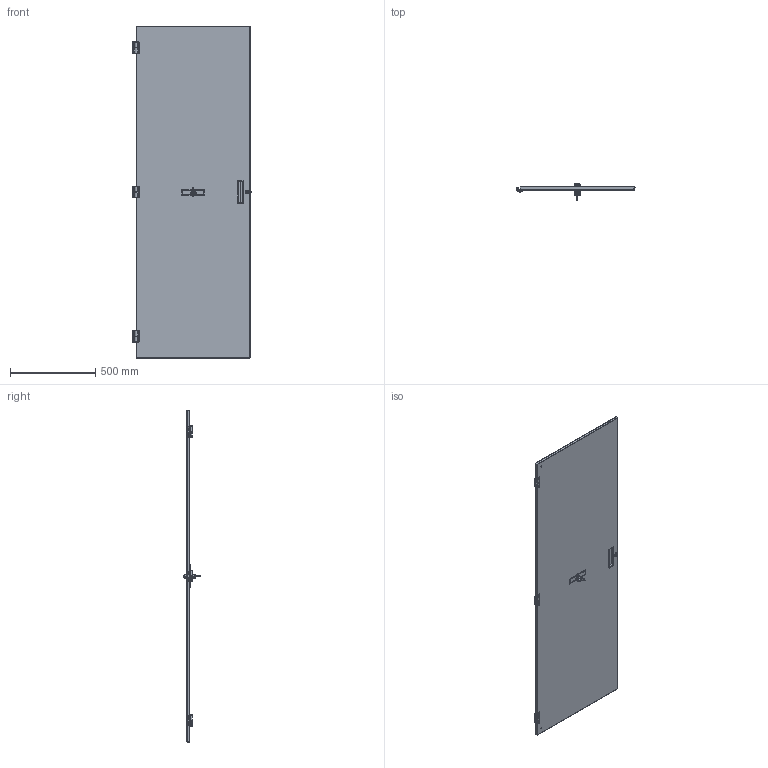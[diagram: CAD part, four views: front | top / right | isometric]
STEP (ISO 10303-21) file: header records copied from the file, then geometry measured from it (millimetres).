
FILE_DESCRIPTION( ( 'Unknown' ), '1' );
FILE_NAME( 'Q:/C4/WEB DRAWINGS/C4DF/STEP/C4DF3077S.stp', 'Unknown', ( 'Unknown' ), ( 'Unknown' ), 'PSStep 10.1', 'Unknown', ' ' );
FILE_SCHEMA( ( 'AUTOMOTIVE_DESIGN { 1 0 10303 214 1 1 1 1 }' ) );
Length unit declared in the file: millimetre
Products named in the file (14): COM55531-7; Assem1; HNG14591; std26020; std26020-oa0; HNG14591-1; HNG14591-1-oa1; HNG14591-2; HNG14591-2-oa2; HNG14591-3; HNG14591-4; HAN13044; LOC13312
Bounding box: 694.89 x 95.1 x 1951.05 mm (x, y, z)
Volume: 6425583.1 mm3; surface area: 8765116 mm2
Topology: 43 solids, 43 shells, 3211 faces, 7594 edges, 4948 vertices
Faces by surface type: plane 2222, cylinder 793, torus 70, cone 68, bspline 58
Full cylindrical faces by diameter (mm): 4.775 x6, 6 x10, 6.1 x10, 6.2 x20, 6.35 x6, 8.382 x2, 9.95 x20, 10.312 x18, 13.868 x2, 13.97 x2, 21.996 x2
Entity records: 27643 total; most frequent: CARTESIAN_POINT 4746, DIRECTION 3565, ORIENTED_EDGE 3310, EDGE_CURVE 1655, AXIS2_PLACEMENT_3D 1248, VERTEX_POINT 1088, LINE 1069, VECTOR 1069
